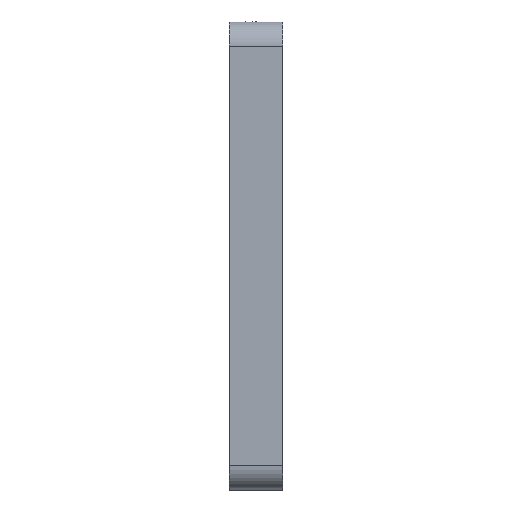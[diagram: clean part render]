
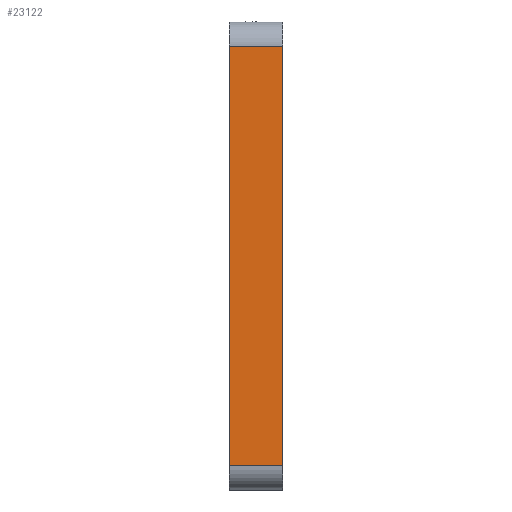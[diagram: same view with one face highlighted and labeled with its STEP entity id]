
A CAD part, left-side view. The second image highlights one B-rep face of the part: STEP entity #23122.
In plain terms, the highlighted planar face has unit normal (-1, 0, 0).
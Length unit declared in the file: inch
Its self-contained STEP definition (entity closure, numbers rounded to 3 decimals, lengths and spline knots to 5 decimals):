
#1186 = DIRECTION ( 'NONE',  ( 0., 0., -1. ) ) ;
#4981 = ORIENTED_EDGE ( 'NONE', *, *, #27535, .F. ) ;
#5204 = FACE_OUTER_BOUND ( 'NONE', #27207, .T. ) ;
#5986 = LINE ( 'NONE', #31769, #12759 ) ;
#7611 = CARTESIAN_POINT ( 'NONE',  ( -11.15487, 0., 7.77279 ) ) ;
#7702 = CARTESIAN_POINT ( 'NONE',  ( -11.15487, 0., 7.77279 ) ) ;
#7836 = LINE ( 'NONE', #16484, #20623 ) ;
#7940 = EDGE_CURVE ( 'NONE', #29398, #7954, #24403, .T. ) ;
#7954 = VERTEX_POINT ( 'NONE', #25072 ) ;
#8726 = VERTEX_POINT ( 'NONE', #32376 ) ;
#8944 = DIRECTION ( 'NONE',  ( 0., 0., 1. ) ) ;
#10018 = VECTOR ( 'NONE', #32773, 39.37008 ) ;
#12759 = VECTOR ( 'NONE', #1186, 39.37008 ) ;
#13019 = ORIENTED_EDGE ( 'NONE', *, *, #32920, .T. ) ;
#14916 = CARTESIAN_POINT ( 'NONE',  ( -11.15487, 2., -7.77279 ) ) ;
#16484 = CARTESIAN_POINT ( 'NONE',  ( -11.15487, 2., 7.77279 ) ) ;
#17321 = DIRECTION ( 'NONE',  ( 0., 0., -1. ) ) ;
#17888 = CARTESIAN_POINT ( 'NONE',  ( -11.15487, 2., -7.77279 ) ) ;
#19121 = PLANE ( 'NONE',  #20992 ) ;
#19235 = LINE ( 'NONE', #7611, #31997 ) ;
#20488 = EDGE_CURVE ( 'NONE', #28579, #7954, #19235, .T. ) ;
#20623 = VECTOR ( 'NONE', #29196, 39.37008 ) ;
#20992 = AXIS2_PLACEMENT_3D ( 'NONE', #31835, #24243, #8944 ) ;
#23122 = ADVANCED_FACE ( 'NONE', ( #5204 ), #19121, .T. ) ;
#24243 = DIRECTION ( 'NONE',  ( -1., 0., 0. ) ) ;
#24380 = ORIENTED_EDGE ( 'NONE', *, *, #20488, .F. ) ;
#24403 = LINE ( 'NONE', #14916, #10018 ) ;
#25072 = CARTESIAN_POINT ( 'NONE',  ( -11.15487, 0., -7.77279 ) ) ;
#27207 = EDGE_LOOP ( 'NONE', ( #24380, #4981, #13019, #29124 ) ) ;
#27535 = EDGE_CURVE ( 'NONE', #8726, #28579, #7836, .T. ) ;
#28579 = VERTEX_POINT ( 'NONE', #7702 ) ;
#29124 = ORIENTED_EDGE ( 'NONE', *, *, #7940, .T. ) ;
#29196 = DIRECTION ( 'NONE',  ( 0., -1., 0. ) ) ;
#29398 = VERTEX_POINT ( 'NONE', #17888 ) ;
#31769 = CARTESIAN_POINT ( 'NONE',  ( -11.15487, 2., 7.77279 ) ) ;
#31835 = CARTESIAN_POINT ( 'NONE',  ( -11.15487, 2., 7.77279 ) ) ;
#31997 = VECTOR ( 'NONE', #17321, 39.37008 ) ;
#32376 = CARTESIAN_POINT ( 'NONE',  ( -11.15487, 2., 7.77279 ) ) ;
#32773 = DIRECTION ( 'NONE',  ( 0., -1., 0. ) ) ;
#32920 = EDGE_CURVE ( 'NONE', #8726, #29398, #5986, .T. ) ;
